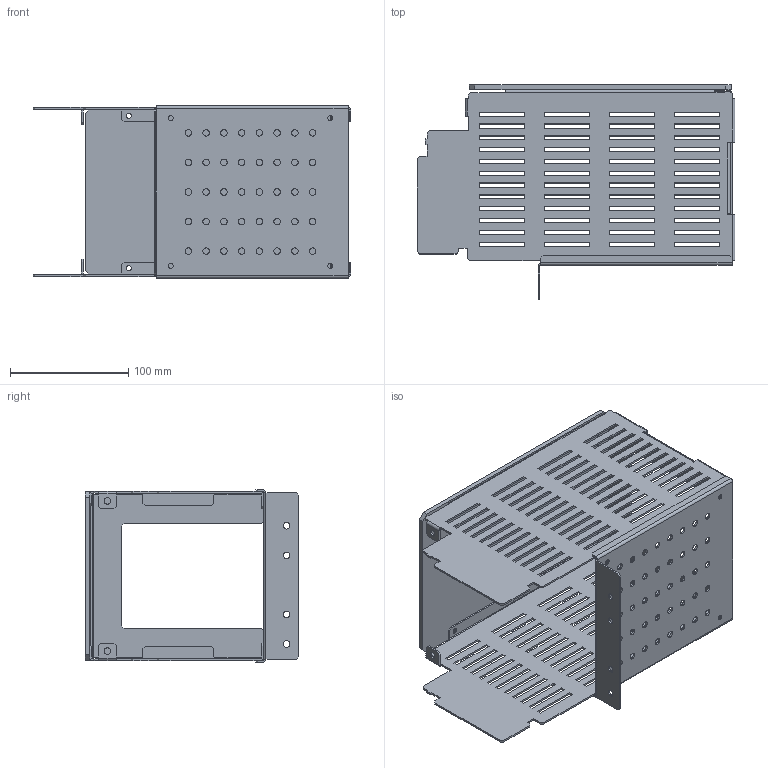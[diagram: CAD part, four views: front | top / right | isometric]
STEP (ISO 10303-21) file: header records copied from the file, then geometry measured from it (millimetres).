
FILE_DESCRIPTION(('CAx-IF Rec.Pracs.---Model Styling and Organization---1.2---2011-12-15','CAx-IF Rec.Pracs.---Geometric and Assembly Validation Properties---4.1---2014-06-16','CAx-IF Rec.Pracs.---PMI Polyline Presentation---2.0---2013-05-24'),'2;1');
FILE_NAME('R5MW2MSB4.stp','2021-05-05T12:58:54+03:00',(''),(''),'STEP Interface 4.4 by CT CoreTechnologie','3D_Evolution4.4 by CT CoreTechnologie','');
FILE_SCHEMA(('AUTOMOTIVE_DESIGN { 1 0 10303 214 1 1 1 1 }'));
Length unit declared in the file: millimetre
Products named in the file (6): R5MW2MSB4; RB.1409.00.00.0_-00; RB.1460.00.00.0_-01; RB.1461.00.00.0_-01; RB.1462.00.00.0_-01; RB.1409.00.00.0_-01
Assembly tree (5 placements, depth 2):
  R5MW2MSB4
    RB.1409.00.00.0_-00
    RB.1460.00.00.0_-01
    RB.1461.00.00.0_-01
    RB.1462.00.00.0_-01
    RB.1409.00.00.0_-01
Bounding box: 269 x 181 x 146 mm (x, y, z)
Surface area: 300942.5 mm2 (no closed solid volume)
Topology: 0 solids, 5 shells, 778 faces, 2268 edges, 1500 vertices
Faces by surface type: plane 618, cylinder 160
Entity records: 26329 total; most frequent: CARTESIAN_POINT 4552, ORIENTED_EDGE 4536, DIRECTION 4156, EDGE_CURVE 2268, VECTOR 1948, LINE 1948, VERTEX_POINT 1500, AXIS2_PLACEMENT_3D 1104
